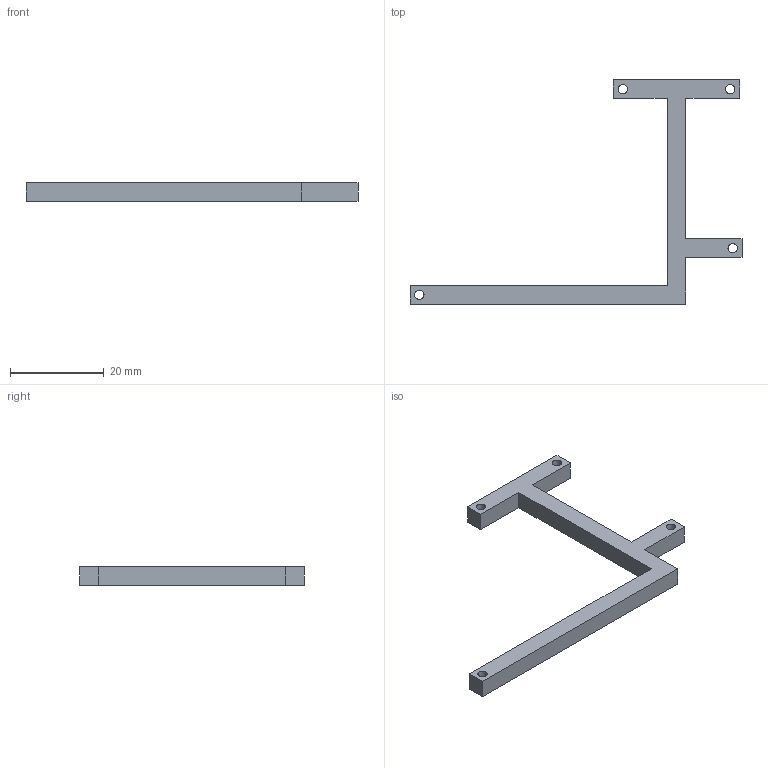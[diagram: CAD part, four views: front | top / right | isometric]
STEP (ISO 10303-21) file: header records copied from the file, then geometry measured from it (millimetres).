
FILE_DESCRIPTION (( 'STEP AP203' ), '1' );
FILE_NAME ('Bascule_Défaut_sldprt.STEP', '2025-03-05T11:19:38', ( '' ), ( '' ), 'SwSTEP 2.0', 'SolidWorks 2023', '' );
FILE_SCHEMA (( 'CONFIG_CONTROL_DESIGN' ));
Length unit declared in the file: millimetre
Products named in the file (1): Bascule_Défaut_sldprt
Bounding box: 71 x 48 x 4 mm (x, y, z)
Volume: 2157.7 mm3; surface area: 2315.4 mm2
Topology: 1 solids, 1 shells, 24 faces, 66 edges, 44 vertices
Faces by surface type: plane 16, cylinder 8
Entity records: 859 total; most frequent: CARTESIAN_POINT 135, DIRECTION 132, ORIENTED_EDGE 132, EDGE_CURVE 66, VECTOR 50, LINE 50, VERTEX_POINT 44, AXIS2_PLACEMENT_3D 41
